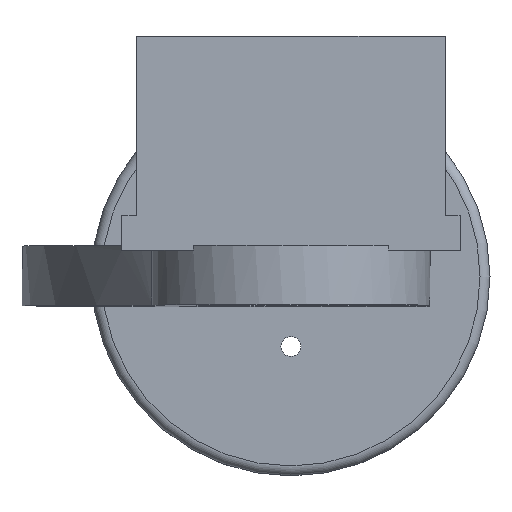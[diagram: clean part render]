
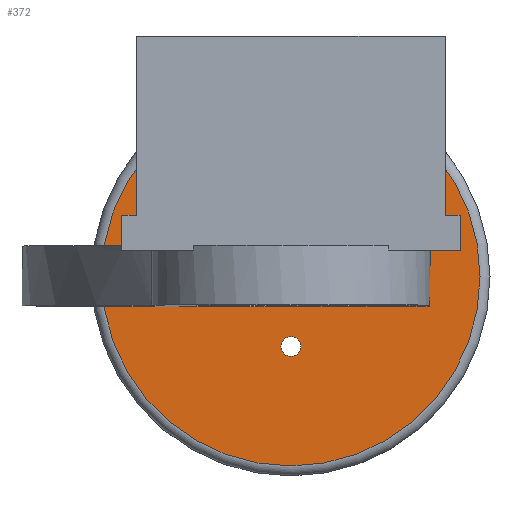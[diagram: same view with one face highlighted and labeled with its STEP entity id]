
A CAD part, top view. The second image highlights one B-rep face of the part: STEP entity #372.
In plain terms, the highlighted planar face has unit normal (0, 0, 1).
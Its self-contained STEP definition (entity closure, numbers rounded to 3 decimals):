
#66 = TOROIDAL_SURFACE('',#67,19.,1.);
#67 = AXIS2_PLACEMENT_3D('',#68,#69,#70);
#68 = CARTESIAN_POINT('',(0.,0.,7.));
#69 = DIRECTION('',(0.,0.,1.));
#70 = DIRECTION('',(1.,0.,-0.));
#164 = VERTEX_POINT('',#165);
#165 = CARTESIAN_POINT('',(19.,0.,8.));
#187 = EDGE_CURVE('',#164,#164,#188,.T.);
#188 = SURFACE_CURVE('',#189,(#194,#201),.PCURVE_S1.);
#189 = CIRCLE('',#190,19.);
#190 = AXIS2_PLACEMENT_3D('',#191,#192,#193);
#191 = CARTESIAN_POINT('',(0.,0.,8.));
#192 = DIRECTION('',(0.,0.,1.));
#193 = DIRECTION('',(1.,0.,-0.));
#194 = PCURVE('',#66,#195);
#195 = DEFINITIONAL_REPRESENTATION('',(#196),#200);
#196 = LINE('',#197,#198);
#197 = CARTESIAN_POINT('',(0.,1.571));
#198 = VECTOR('',#199,1.);
#199 = DIRECTION('',(1.,0.));
#200 = ( GEOMETRIC_REPRESENTATION_CONTEXT(2) 
PARAMETRIC_REPRESENTATION_CONTEXT() REPRESENTATION_CONTEXT('2D SPACE',''
  ) );
#201 = PCURVE('',#202,#207);
#202 = PLANE('',#203);
#203 = AXIS2_PLACEMENT_3D('',#204,#205,#206);
#204 = CARTESIAN_POINT('',(0.,0.,8.));
#205 = DIRECTION('',(0.,0.,1.));
#206 = DIRECTION('',(1.,0.,-0.));
#207 = DEFINITIONAL_REPRESENTATION('',(#208),#212);
#208 = CIRCLE('',#209,19.);
#209 = AXIS2_PLACEMENT_2D('',#210,#211);
#210 = CARTESIAN_POINT('',(0.,0.));
#211 = DIRECTION('',(1.,0.));
#212 = ( GEOMETRIC_REPRESENTATION_CONTEXT(2) 
PARAMETRIC_REPRESENTATION_CONTEXT() REPRESENTATION_CONTEXT('2D SPACE',''
  ) );
#237 = CYLINDRICAL_SURFACE('',#238,1.);
#238 = AXIS2_PLACEMENT_3D('',#239,#240,#241);
#239 = CARTESIAN_POINT('',(0.,-7.,3.5));
#240 = DIRECTION('',(0.,0.,1.));
#241 = DIRECTION('',(1.,0.,-0.));
#361 = CYLINDRICAL_SURFACE('',#362,1.);
#362 = AXIS2_PLACEMENT_3D('',#363,#364,#365);
#363 = CARTESIAN_POINT('',(0.,7.,3.5));
#364 = DIRECTION('',(0.,0.,1.));
#365 = DIRECTION('',(1.,0.,-0.));
#372 = ADVANCED_FACE('',(#373,#376,#402,#508),#202,.T.);
#373 = FACE_BOUND('',#374,.T.);
#374 = EDGE_LOOP('',(#375));
#375 = ORIENTED_EDGE('',*,*,#187,.T.);
#376 = FACE_BOUND('',#377,.T.);
#377 = EDGE_LOOP('',(#378));
#378 = ORIENTED_EDGE('',*,*,#379,.F.);
#379 = EDGE_CURVE('',#380,#380,#382,.T.);
#380 = VERTEX_POINT('',#381);
#381 = CARTESIAN_POINT('',(1.,-7.,8.));
#382 = SURFACE_CURVE('',#383,(#388,#395),.PCURVE_S1.);
#383 = CIRCLE('',#384,1.);
#384 = AXIS2_PLACEMENT_3D('',#385,#386,#387);
#385 = CARTESIAN_POINT('',(0.,-7.,8.));
#386 = DIRECTION('',(0.,0.,1.));
#387 = DIRECTION('',(1.,0.,-0.));
#388 = PCURVE('',#202,#389);
#389 = DEFINITIONAL_REPRESENTATION('',(#390),#394);
#390 = CIRCLE('',#391,1.);
#391 = AXIS2_PLACEMENT_2D('',#392,#393);
#392 = CARTESIAN_POINT('',(0.,-7.));
#393 = DIRECTION('',(1.,0.));
#394 = ( GEOMETRIC_REPRESENTATION_CONTEXT(2) 
PARAMETRIC_REPRESENTATION_CONTEXT() REPRESENTATION_CONTEXT('2D SPACE',''
  ) );
#395 = PCURVE('',#237,#396);
#396 = DEFINITIONAL_REPRESENTATION('',(#397),#401);
#397 = LINE('',#398,#399);
#398 = CARTESIAN_POINT('',(0.,4.5));
#399 = VECTOR('',#400,1.);
#400 = DIRECTION('',(1.,0.));
#401 = ( GEOMETRIC_REPRESENTATION_CONTEXT(2) 
PARAMETRIC_REPRESENTATION_CONTEXT() REPRESENTATION_CONTEXT('2D SPACE',''
  ) );
#402 = FACE_BOUND('',#403,.T.);
#403 = EDGE_LOOP('',(#404,#432,#458,#484));
#404 = ORIENTED_EDGE('',*,*,#405,.F.);
#405 = EDGE_CURVE('',#406,#408,#410,.T.);
#406 = VERTEX_POINT('',#407);
#407 = CARTESIAN_POINT('',(12.649,3.,8.));
#408 = VERTEX_POINT('',#409);
#409 = CARTESIAN_POINT('',(-12.649,3.,8.));
#410 = SURFACE_CURVE('',#411,(#415,#421),.PCURVE_S1.);
#411 = LINE('',#412,#413);
#412 = CARTESIAN_POINT('',(-5.45,3.,8.));
#413 = VECTOR('',#414,1.);
#414 = DIRECTION('',(-1.,0.,0.));
#415 = PCURVE('',#202,#416);
#416 = DEFINITIONAL_REPRESENTATION('',(#417),#420);
#417 = B_SPLINE_CURVE_WITH_KNOTS('',1,(#418,#419),.UNSPECIFIED.,.F.,.F.,
  (2,2),(-19.45,13.55),.PIECEWISE_BEZIER_KNOTS.);
#418 = CARTESIAN_POINT('',(14.,3.));
#419 = CARTESIAN_POINT('',(-19.,3.));
#420 = ( GEOMETRIC_REPRESENTATION_CONTEXT(2) 
PARAMETRIC_REPRESENTATION_CONTEXT() REPRESENTATION_CONTEXT('2D SPACE',''
  ) );
#421 = PCURVE('',#422,#427);
#422 = PLANE('',#423);
#423 = AXIS2_PLACEMENT_3D('',#424,#425,#426);
#424 = CARTESIAN_POINT('',(-10.9,3.,54.));
#425 = DIRECTION('',(0.,1.,0.));
#426 = DIRECTION('',(0.,-0.,1.));
#427 = DEFINITIONAL_REPRESENTATION('',(#428),#431);
#428 = B_SPLINE_CURVE_WITH_KNOTS('',1,(#429,#430),.UNSPECIFIED.,.F.,.F.,
  (2,2),(-19.45,13.55),.PIECEWISE_BEZIER_KNOTS.);
#429 = CARTESIAN_POINT('',(-46.,24.9));
#430 = CARTESIAN_POINT('',(-46.,-8.1));
#431 = ( GEOMETRIC_REPRESENTATION_CONTEXT(2) 
PARAMETRIC_REPRESENTATION_CONTEXT() REPRESENTATION_CONTEXT('2D SPACE',''
  ) );
#432 = ORIENTED_EDGE('',*,*,#433,.T.);
#433 = EDGE_CURVE('',#406,#434,#436,.T.);
#434 = VERTEX_POINT('',#435);
#435 = CARTESIAN_POINT('',(12.649,-3.,8.));
#436 = SURFACE_CURVE('',#437,(#441,#447),.PCURVE_S1.);
#437 = LINE('',#438,#439);
#438 = CARTESIAN_POINT('',(12.649,0.,8.));
#439 = VECTOR('',#440,1.);
#440 = DIRECTION('',(0.,-1.,0.));
#441 = PCURVE('',#202,#442);
#442 = DEFINITIONAL_REPRESENTATION('',(#443),#446);
#443 = B_SPLINE_CURVE_WITH_KNOTS('',1,(#444,#445),.UNSPECIFIED.,.F.,.F.,
  (2,2),(-3.,3.),.PIECEWISE_BEZIER_KNOTS.);
#444 = CARTESIAN_POINT('',(12.649,3.));
#445 = CARTESIAN_POINT('',(12.649,-3.));
#446 = ( GEOMETRIC_REPRESENTATION_CONTEXT(2) 
PARAMETRIC_REPRESENTATION_CONTEXT() REPRESENTATION_CONTEXT('2D SPACE',''
  ) );
#447 = PCURVE('',#448,#453);
#448 = CYLINDRICAL_SURFACE('',#449,14.);
#449 = AXIS2_PLACEMENT_3D('',#450,#451,#452);
#450 = CARTESIAN_POINT('',(0.,0.,14.));
#451 = DIRECTION('',(0.,-1.,0.));
#452 = DIRECTION('',(1.,0.,0.));
#453 = DEFINITIONAL_REPRESENTATION('',(#454),#457);
#454 = B_SPLINE_CURVE_WITH_KNOTS('',1,(#455,#456),.UNSPECIFIED.,.F.,.F.,
  (2,2),(-3.,3.),.PIECEWISE_BEZIER_KNOTS.);
#455 = CARTESIAN_POINT('',(5.84,-3.));
#456 = CARTESIAN_POINT('',(5.84,3.));
#457 = ( GEOMETRIC_REPRESENTATION_CONTEXT(2) 
PARAMETRIC_REPRESENTATION_CONTEXT() REPRESENTATION_CONTEXT('2D SPACE',''
  ) );
#458 = ORIENTED_EDGE('',*,*,#459,.T.);
#459 = EDGE_CURVE('',#434,#460,#462,.T.);
#460 = VERTEX_POINT('',#461);
#461 = CARTESIAN_POINT('',(-12.649,-3.,8.));
#462 = SURFACE_CURVE('',#463,(#467,#473),.PCURVE_S1.);
#463 = LINE('',#464,#465);
#464 = CARTESIAN_POINT('',(-5.45,-3.,8.));
#465 = VECTOR('',#466,1.);
#466 = DIRECTION('',(-1.,0.,0.));
#467 = PCURVE('',#202,#468);
#468 = DEFINITIONAL_REPRESENTATION('',(#469),#472);
#469 = B_SPLINE_CURVE_WITH_KNOTS('',1,(#470,#471),.UNSPECIFIED.,.F.,.F.,
  (2,2),(-19.45,13.55),.PIECEWISE_BEZIER_KNOTS.);
#470 = CARTESIAN_POINT('',(14.,-3.));
#471 = CARTESIAN_POINT('',(-19.,-3.));
#472 = ( GEOMETRIC_REPRESENTATION_CONTEXT(2) 
PARAMETRIC_REPRESENTATION_CONTEXT() REPRESENTATION_CONTEXT('2D SPACE',''
  ) );
#473 = PCURVE('',#474,#479);
#474 = PLANE('',#475);
#475 = AXIS2_PLACEMENT_3D('',#476,#477,#478);
#476 = CARTESIAN_POINT('',(-10.9,-3.,54.));
#477 = DIRECTION('',(0.,1.,0.));
#478 = DIRECTION('',(0.,-0.,1.));
#479 = DEFINITIONAL_REPRESENTATION('',(#480),#483);
#480 = B_SPLINE_CURVE_WITH_KNOTS('',1,(#481,#482),.UNSPECIFIED.,.F.,.F.,
  (2,2),(-19.45,13.55),.PIECEWISE_BEZIER_KNOTS.);
#481 = CARTESIAN_POINT('',(-46.,24.9));
#482 = CARTESIAN_POINT('',(-46.,-8.1));
#483 = ( GEOMETRIC_REPRESENTATION_CONTEXT(2) 
PARAMETRIC_REPRESENTATION_CONTEXT() REPRESENTATION_CONTEXT('2D SPACE',''
  ) );
#484 = ORIENTED_EDGE('',*,*,#485,.F.);
#485 = EDGE_CURVE('',#408,#460,#486,.T.);
#486 = SURFACE_CURVE('',#487,(#491,#497),.PCURVE_S1.);
#487 = LINE('',#488,#489);
#488 = CARTESIAN_POINT('',(-12.649,0.,8.));
#489 = VECTOR('',#490,1.);
#490 = DIRECTION('',(0.,-1.,0.));
#491 = PCURVE('',#202,#492);
#492 = DEFINITIONAL_REPRESENTATION('',(#493),#496);
#493 = B_SPLINE_CURVE_WITH_KNOTS('',1,(#494,#495),.UNSPECIFIED.,.F.,.F.,
  (2,2),(-3.,3.),.PIECEWISE_BEZIER_KNOTS.);
#494 = CARTESIAN_POINT('',(-12.649,3.));
#495 = CARTESIAN_POINT('',(-12.649,-3.));
#496 = ( GEOMETRIC_REPRESENTATION_CONTEXT(2) 
PARAMETRIC_REPRESENTATION_CONTEXT() REPRESENTATION_CONTEXT('2D SPACE',''
  ) );
#497 = PCURVE('',#498,#503);
#498 = CYLINDRICAL_SURFACE('',#499,14.);
#499 = AXIS2_PLACEMENT_3D('',#500,#501,#502);
#500 = CARTESIAN_POINT('',(0.,0.,14.));
#501 = DIRECTION('',(0.,-1.,0.));
#502 = DIRECTION('',(1.,0.,0.));
#503 = DEFINITIONAL_REPRESENTATION('',(#504),#507);
#504 = B_SPLINE_CURVE_WITH_KNOTS('',1,(#505,#506),.UNSPECIFIED.,.F.,.F.,
  (2,2),(-3.,3.),.PIECEWISE_BEZIER_KNOTS.);
#505 = CARTESIAN_POINT('',(3.585,-3.));
#506 = CARTESIAN_POINT('',(3.585,3.));
#507 = ( GEOMETRIC_REPRESENTATION_CONTEXT(2) 
PARAMETRIC_REPRESENTATION_CONTEXT() REPRESENTATION_CONTEXT('2D SPACE',''
  ) );
#508 = FACE_BOUND('',#509,.T.);
#509 = EDGE_LOOP('',(#510));
#510 = ORIENTED_EDGE('',*,*,#511,.F.);
#511 = EDGE_CURVE('',#512,#512,#514,.T.);
#512 = VERTEX_POINT('',#513);
#513 = CARTESIAN_POINT('',(1.,7.,8.));
#514 = SURFACE_CURVE('',#515,(#520,#527),.PCURVE_S1.);
#515 = CIRCLE('',#516,1.);
#516 = AXIS2_PLACEMENT_3D('',#517,#518,#519);
#517 = CARTESIAN_POINT('',(0.,7.,8.));
#518 = DIRECTION('',(0.,0.,1.));
#519 = DIRECTION('',(1.,0.,-0.));
#520 = PCURVE('',#202,#521);
#521 = DEFINITIONAL_REPRESENTATION('',(#522),#526);
#522 = CIRCLE('',#523,1.);
#523 = AXIS2_PLACEMENT_2D('',#524,#525);
#524 = CARTESIAN_POINT('',(0.,7.));
#525 = DIRECTION('',(1.,0.));
#526 = ( GEOMETRIC_REPRESENTATION_CONTEXT(2) 
PARAMETRIC_REPRESENTATION_CONTEXT() REPRESENTATION_CONTEXT('2D SPACE',''
  ) );
#527 = PCURVE('',#361,#528);
#528 = DEFINITIONAL_REPRESENTATION('',(#529),#533);
#529 = LINE('',#530,#531);
#530 = CARTESIAN_POINT('',(0.,4.5));
#531 = VECTOR('',#532,1.);
#532 = DIRECTION('',(1.,0.));
#533 = ( GEOMETRIC_REPRESENTATION_CONTEXT(2) 
PARAMETRIC_REPRESENTATION_CONTEXT() REPRESENTATION_CONTEXT('2D SPACE',''
  ) );
